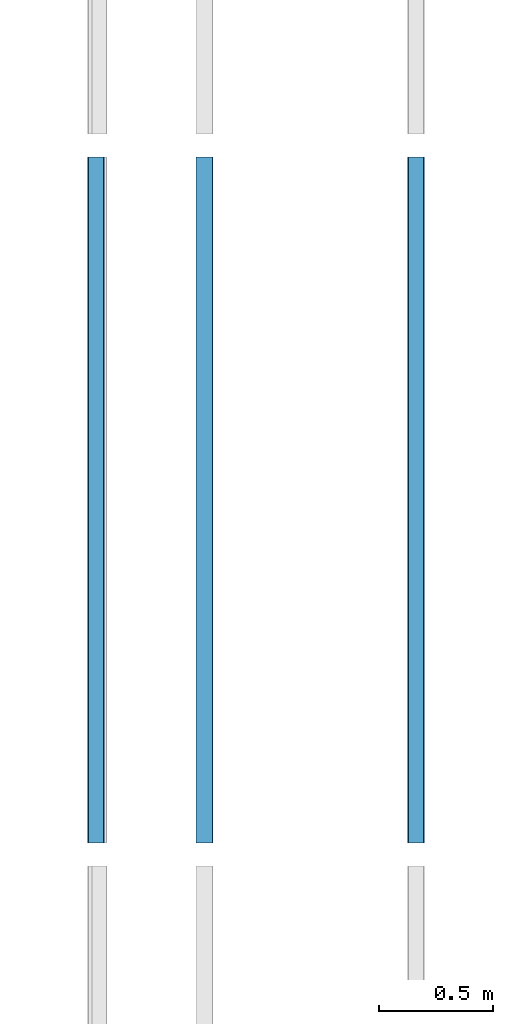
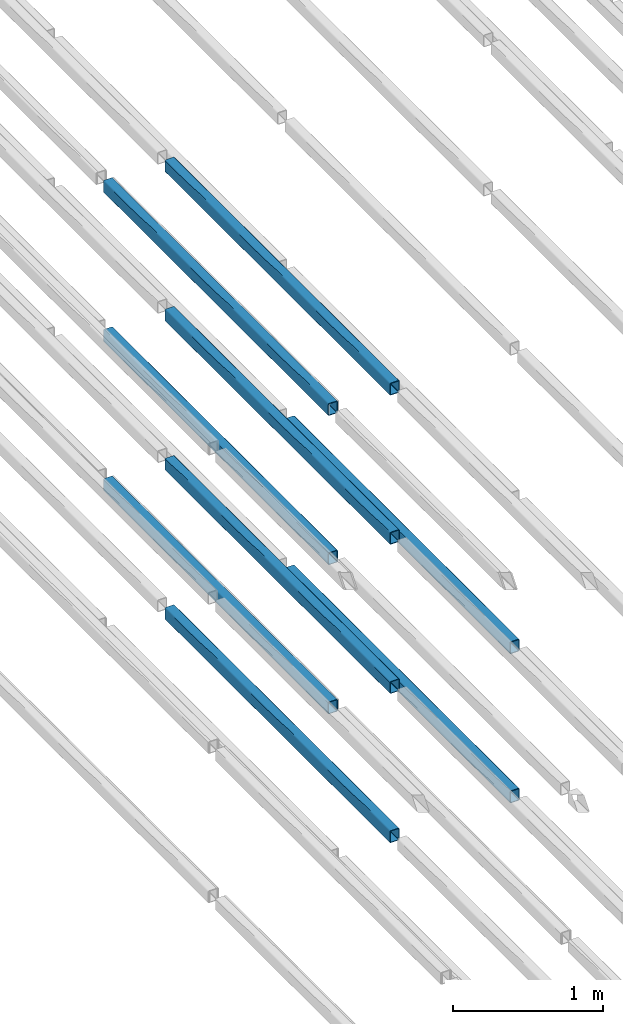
# One storey, part 42 of 290: 9 beams.
"""IFC2X3 building model written with IfcOpenShell, lengths in metres."""

from ifc_helpers import new_model, entity, si_unit, converted_unit, derived_unit, direction, frame, frame_2d, origin, place, context, subcontext, project, spatial, polyline, circle_curve, parameter, trimmed, segment, composite_curve, outline, extrude, material, type_object, element, save


model = new_model("IFC2X3")

# Units and contexts
model_context = context("Model", 3, precision=1e-05, world=origin(), true_north=direction((6.12303176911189e-17, 1.0)))
body_context = subcontext(model_context, "Body", "Model", "MODEL_VIEW")
ifc_project = project(units=[si_unit("LENGTHUNIT", "METRE"), si_unit("AREAUNIT", "SQUARE_METRE"), si_unit("VOLUMEUNIT", "CUBIC_METRE"), converted_unit("PLANEANGLEUNIT", "DEGREE", entity("IfcRatioMeasure", 0.0174532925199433), si_unit("PLANEANGLEUNIT", "RADIAN"), dimensions=[0, 0, 0, 0, 0, 0, 0]), si_unit("MASSUNIT", "GRAM", prefix="KILO"), derived_unit("MASSDENSITYUNIT", [(si_unit("MASSUNIT", "GRAM", prefix="KILO"), 1), (si_unit("LENGTHUNIT", "METRE"), -3)]), derived_unit("MOMENTOFINERTIAUNIT", [(si_unit("LENGTHUNIT", "METRE"), 4)]), si_unit("TIMEUNIT", "SECOND"), si_unit("FREQUENCYUNIT", "HERTZ"), si_unit("THERMODYNAMICTEMPERATUREUNIT", "DEGREE_CELSIUS"), derived_unit("THERMALTRANSMITTANCEUNIT", [(si_unit("MASSUNIT", "GRAM", prefix="KILO"), 1), (si_unit("THERMODYNAMICTEMPERATUREUNIT", "KELVIN"), -1), (si_unit("TIMEUNIT", "SECOND"), -3)]), derived_unit("VOLUMETRICFLOWRATEUNIT", [(si_unit("LENGTHUNIT", "METRE"), 3), (si_unit("TIMEUNIT", "SECOND"), -1)]), si_unit("ELECTRICCURRENTUNIT", "AMPERE"), si_unit("ELECTRICVOLTAGEUNIT", "VOLT"), si_unit("POWERUNIT", "WATT"), si_unit("FORCEUNIT", "NEWTON", prefix="KILO"), si_unit("ILLUMINANCEUNIT", "LUX"), si_unit("LUMINOUSFLUXUNIT", "LUMEN"), si_unit("LUMINOUSINTENSITYUNIT", "CANDELA"), derived_unit("USERDEFINED", [(si_unit("MASSUNIT", "GRAM", prefix="KILO"), -1), (si_unit("LENGTHUNIT", "METRE"), -2), (si_unit("TIMEUNIT", "SECOND"), 3), (si_unit("LUMINOUSFLUXUNIT", "LUMEN"), 1)]), derived_unit("LINEARVELOCITYUNIT", [(si_unit("LENGTHUNIT", "METRE"), 1), (si_unit("TIMEUNIT", "SECOND"), -1)]), si_unit("PRESSUREUNIT", "PASCAL"), derived_unit("USERDEFINED", [(si_unit("LENGTHUNIT", "METRE"), -2), (si_unit("MASSUNIT", "GRAM", prefix="KILO"), 1), (si_unit("TIMEUNIT", "SECOND"), -2)]), derived_unit("LINEARFORCEUNIT", [(si_unit("MASSUNIT", "GRAM", prefix="KILO"), 1), (si_unit("LENGTHUNIT", "METRE"), 1), (si_unit("TIMEUNIT", "SECOND"), -2), (si_unit("LENGTHUNIT", "METRE"), -1)]), derived_unit("PLANARFORCEUNIT", [(si_unit("MASSUNIT", "GRAM", prefix="KILO"), 1), (si_unit("LENGTHUNIT", "METRE"), 1), (si_unit("TIMEUNIT", "SECOND"), -2), (si_unit("LENGTHUNIT", "METRE"), -2)])], contexts=[model_context])

# Site, building, storey
site_placement = place(None, origin())
site = spatial("IfcSite", under=ifc_project, at=site_placement, Name="Default", CompositionType="ELEMENT")
building_placement = place(site_placement, origin())
building = spatial("IfcBuilding", under=site, at=building_placement, CompositionType="ELEMENT")
storey_placement = place(building_placement, frame((0.0, 0.0, 4.0)))
storey = spatial("IfcBuildingStorey", under=building, at=storey_placement, Name="01_OG", CompositionType="ELEMENT", Elevation=4.0)

# Beams
ifc_material = material(Name="Metall - Baustahl S235 blau")
beam_type = type_object("IfcBeamType", Name="RHS Träger (EN 10219-2):RHS 100 x 75 x 5", PredefinedType="NOTDEFINED")
beam_1_placement = place(storey_placement, frame((-200.715111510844, 33.348088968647, -1.2), z_axis=(0.0, 0.0, 1.0), x_axis=(0.0, 1.0, 0.0)))
element("IfcBeam", 1, at=beam_1_placement, inside=storey, type_object=beam_type, material=ifc_material, Name="RHS Träger (EN 10219-2):RHS 100 x 75 x 5", ObjectType="RHS Träger (EN 10219-2):RHS 100 x 75 x 5", context=body_context, shape_type="SweptSolid", body=[
    extrude(outline(composite_curve([segment(trimmed(circle_curve(frame_2d((-0.0274999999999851, -0.0400000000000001), x_axis=(1.0, 0.0)), 0.01), [parameter(180.0)], [parameter(270.0)], True, "PARAMETER"), True, "CONTINUOUS"), segment(polyline([(-0.0274999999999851, -0.05), (0.0274999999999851, -0.05)]), True, "CONTINUOUS"), segment(trimmed(circle_curve(frame_2d((0.0274999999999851, -0.0400000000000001), x_axis=(1.0, 0.0)), 0.01), [parameter(270.0)], [parameter(5.08888749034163e-14)], True, "PARAMETER"), True, "CONTINUOUS"), segment(polyline([(0.0375000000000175, -0.0400000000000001), (0.0375000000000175, 0.0400000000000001)]), True, "CONTINUOUS"), segment(trimmed(circle_curve(frame_2d((0.0274999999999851, 0.0400000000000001), x_axis=(1.0, 0.0)), 0.01), [parameter(360.0)], [parameter(89.9999999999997)], True, "PARAMETER"), True, "CONTINUOUS"), segment(polyline([(0.0274999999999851, 0.05), (-0.0274999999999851, 0.05)]), True, "CONTINUOUS"), segment(trimmed(circle_curve(frame_2d((-0.0274999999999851, 0.0400000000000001), x_axis=(1.0, 0.0)), 0.01), [parameter(90.0000000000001)], [parameter(180.0)], True, "PARAMETER"), True, "CONTINUOUS"), segment(polyline([(-0.0374999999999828, 0.0400000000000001), (-0.0374999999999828, -0.0400000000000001)]), True, "CONTINUOUS")], self_intersect=False), holes=[composite_curve([segment(polyline([(0.0274999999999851, -0.0450000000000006), (-0.0274999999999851, -0.0450000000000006)]), True, "CONTINUOUS"), segment(trimmed(circle_curve(frame_2d((-0.0274999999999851, -0.0400000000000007), x_axis=(1.0, 0.0)), 0.005), [parameter(180.0)], [parameter(270.0)], True, "PARAMETER"), False, "CONTINUOUS"), segment(polyline([(-0.0325000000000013, -0.0400000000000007), (-0.0325000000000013, 0.039999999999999)]), True, "CONTINUOUS"), segment(trimmed(circle_curve(frame_2d((-0.0274999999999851, 0.039999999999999), x_axis=(1.0, 0.0)), 0.005), [parameter(90.0000000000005)], [parameter(180.0)], True, "PARAMETER"), False, "CONTINUOUS"), segment(polyline([(-0.0274999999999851, 0.044999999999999), (0.0274999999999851, 0.044999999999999)]), True, "CONTINUOUS"), segment(trimmed(circle_curve(frame_2d((0.0274999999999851, 0.039999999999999), x_axis=(1.0, 0.0)), 0.005), [parameter(0.0)], [parameter(90.0000000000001)], True, "PARAMETER"), False, "CONTINUOUS"), segment(polyline([(0.0325000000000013, 0.039999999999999), (0.0325000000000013, -0.0400000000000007)]), True, "CONTINUOUS"), segment(trimmed(circle_curve(frame_2d((0.0274999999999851, -0.0400000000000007), x_axis=(1.0, 0.0)), 0.005), [parameter(270.0)], [parameter(4.07110999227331e-13)], True, "PARAMETER"), False, "CONTINUOUS")], self_intersect=False)]), frame((9.99999999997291e-05, 0.0375000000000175, -0.0500000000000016), z_axis=(1.0, 0.0, 0.0), x_axis=(0.0, -1.0, 0.0)), (0.0, 0.0, 1.0), 2.9998),
])
beam_2_placement = place(storey_placement, frame((-200.715111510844, 33.348088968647, 0.0150000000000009), z_axis=(0.0, 0.0, 1.0), x_axis=(0.0, 1.0, 0.0)))
element("IfcBeam", 2, at=beam_2_placement, inside=storey, type_object=beam_type, material=ifc_material, Name="RHS Träger (EN 10219-2):RHS 100 x 75 x 5", ObjectType="RHS Träger (EN 10219-2):RHS 100 x 75 x 5", context=body_context, shape_type="SweptSolid", body=[
    extrude(outline(composite_curve([segment(trimmed(circle_curve(frame_2d((-0.0274999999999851, -0.0400000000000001), x_axis=(1.0, 0.0)), 0.01), [parameter(180.0)], [parameter(270.0)], True, "PARAMETER"), True, "CONTINUOUS"), segment(polyline([(-0.0274999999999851, -0.05), (0.0274999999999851, -0.05)]), True, "CONTINUOUS"), segment(trimmed(circle_curve(frame_2d((0.0274999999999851, -0.0400000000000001), x_axis=(1.0, 0.0)), 0.01), [parameter(270.0)], [parameter(5.08888749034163e-14)], True, "PARAMETER"), True, "CONTINUOUS"), segment(polyline([(0.0375000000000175, -0.0400000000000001), (0.0375000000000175, 0.0400000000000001)]), True, "CONTINUOUS"), segment(trimmed(circle_curve(frame_2d((0.0274999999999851, 0.0400000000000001), x_axis=(1.0, 0.0)), 0.01), [parameter(360.0)], [parameter(89.9999999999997)], True, "PARAMETER"), True, "CONTINUOUS"), segment(polyline([(0.0274999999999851, 0.05), (-0.0274999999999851, 0.05)]), True, "CONTINUOUS"), segment(trimmed(circle_curve(frame_2d((-0.0274999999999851, 0.0400000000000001), x_axis=(1.0, 0.0)), 0.01), [parameter(90.0000000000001)], [parameter(180.0)], True, "PARAMETER"), True, "CONTINUOUS"), segment(polyline([(-0.0374999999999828, 0.0400000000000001), (-0.0374999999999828, -0.0400000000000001)]), True, "CONTINUOUS")], self_intersect=False), holes=[composite_curve([segment(polyline([(0.0274999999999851, -0.0450000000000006), (-0.0274999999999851, -0.0450000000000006)]), True, "CONTINUOUS"), segment(trimmed(circle_curve(frame_2d((-0.0274999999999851, -0.0400000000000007), x_axis=(1.0, 0.0)), 0.005), [parameter(180.0)], [parameter(270.0)], True, "PARAMETER"), False, "CONTINUOUS"), segment(polyline([(-0.0325000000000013, -0.0400000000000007), (-0.0325000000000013, 0.039999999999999)]), True, "CONTINUOUS"), segment(trimmed(circle_curve(frame_2d((-0.0274999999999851, 0.039999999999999), x_axis=(1.0, 0.0)), 0.005), [parameter(90.0000000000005)], [parameter(180.0)], True, "PARAMETER"), False, "CONTINUOUS"), segment(polyline([(-0.0274999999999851, 0.044999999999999), (0.0274999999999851, 0.044999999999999)]), True, "CONTINUOUS"), segment(trimmed(circle_curve(frame_2d((0.0274999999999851, 0.039999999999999), x_axis=(1.0, 0.0)), 0.005), [parameter(0.0)], [parameter(90.0000000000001)], True, "PARAMETER"), False, "CONTINUOUS"), segment(polyline([(0.0325000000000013, 0.039999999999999), (0.0325000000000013, -0.0400000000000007)]), True, "CONTINUOUS"), segment(trimmed(circle_curve(frame_2d((0.0274999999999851, -0.0400000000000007), x_axis=(1.0, 0.0)), 0.005), [parameter(270.0)], [parameter(4.07110999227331e-13)], True, "PARAMETER"), False, "CONTINUOUS")], self_intersect=False)]), frame((9.99999999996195e-05, 0.0375000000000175, -0.0500000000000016), z_axis=(1.0, 0.0, 0.0), x_axis=(0.0, -1.0, 0.0)), (0.0, 0.0, 1.0), 2.9998),
])
beam_3_placement = place(storey_placement, frame((-200.715111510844, 33.348088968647, 1.23), z_axis=(0.0, 0.0, 1.0), x_axis=(0.0, 1.0, 0.0)))
element("IfcBeam", 3, at=beam_3_placement, inside=storey, type_object=beam_type, material=ifc_material, Name="RHS Träger (EN 10219-2):RHS 100 x 75 x 5", ObjectType="RHS Träger (EN 10219-2):RHS 100 x 75 x 5", context=body_context, shape_type="SweptSolid", body=[
    extrude(outline(composite_curve([segment(trimmed(circle_curve(frame_2d((-0.0274999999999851, -0.0399999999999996), x_axis=(1.0, 0.0)), 0.01), [parameter(180.0)], [parameter(270.0)], True, "PARAMETER"), True, "CONTINUOUS"), segment(polyline([(-0.0274999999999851, -0.0499999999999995), (0.0274999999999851, -0.0499999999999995)]), True, "CONTINUOUS"), segment(trimmed(circle_curve(frame_2d((0.0274999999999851, -0.0399999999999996), x_axis=(1.0, 0.0)), 0.01), [parameter(270.0)], [parameter(5.08888749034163e-14)], True, "PARAMETER"), True, "CONTINUOUS"), segment(polyline([(0.0375000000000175, -0.0399999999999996), (0.0375000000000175, 0.0399999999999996)]), True, "CONTINUOUS"), segment(trimmed(circle_curve(frame_2d((0.0274999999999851, 0.0399999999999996), x_axis=(1.0, 0.0)), 0.01), [parameter(360.0)], [parameter(89.9999999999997)], True, "PARAMETER"), True, "CONTINUOUS"), segment(polyline([(0.0274999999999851, 0.0500000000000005), (-0.0274999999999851, 0.0500000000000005)]), True, "CONTINUOUS"), segment(trimmed(circle_curve(frame_2d((-0.0274999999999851, 0.0399999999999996), x_axis=(1.0, 0.0)), 0.01), [parameter(90.0000000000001)], [parameter(180.0)], True, "PARAMETER"), True, "CONTINUOUS"), segment(polyline([(-0.0374999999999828, 0.0399999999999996), (-0.0374999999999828, -0.0399999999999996)]), True, "CONTINUOUS")], self_intersect=False), holes=[composite_curve([segment(polyline([(0.0274999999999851, -0.0450000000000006), (-0.0274999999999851, -0.0450000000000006)]), True, "CONTINUOUS"), segment(trimmed(circle_curve(frame_2d((-0.0274999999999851, -0.0400000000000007), x_axis=(1.0, 0.0)), 0.005), [parameter(180.0)], [parameter(270.0)], True, "PARAMETER"), False, "CONTINUOUS"), segment(polyline([(-0.0325000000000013, -0.0400000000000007), (-0.0325000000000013, 0.0399999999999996)]), True, "CONTINUOUS"), segment(trimmed(circle_curve(frame_2d((-0.0274999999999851, 0.0399999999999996), x_axis=(1.0, 0.0)), 0.005), [parameter(90.0000000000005)], [parameter(180.0)], True, "PARAMETER"), False, "CONTINUOUS"), segment(polyline([(-0.0274999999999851, 0.0449999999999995), (0.0274999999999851, 0.0449999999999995)]), True, "CONTINUOUS"), segment(trimmed(circle_curve(frame_2d((0.0274999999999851, 0.0399999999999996), x_axis=(1.0, 0.0)), 0.005), [parameter(0.0)], [parameter(90.0000000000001)], True, "PARAMETER"), False, "CONTINUOUS"), segment(polyline([(0.0325000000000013, 0.0399999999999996), (0.0325000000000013, -0.0400000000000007)]), True, "CONTINUOUS"), segment(trimmed(circle_curve(frame_2d((0.0274999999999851, -0.0400000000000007), x_axis=(1.0, 0.0)), 0.005), [parameter(270.0)], [parameter(4.07110999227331e-13)], True, "PARAMETER"), False, "CONTINUOUS")], self_intersect=False)]), frame((9.99999999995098e-05, 0.0375000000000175, -0.0500000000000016), z_axis=(1.0, 0.0, 0.0), x_axis=(0.0, -1.0, 0.0)), (0.0, 0.0, 1.0), 2.9998),
])
beam_4_placement = place(storey_placement, frame((-200.715111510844, 33.348088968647, 2.445), z_axis=(0.0, 0.0, 1.0), x_axis=(0.0, 1.0, 0.0)))
element("IfcBeam", 4, at=beam_4_placement, inside=storey, type_object=beam_type, material=ifc_material, Name="RHS Träger (EN 10219-2):RHS 100 x 75 x 5", ObjectType="RHS Träger (EN 10219-2):RHS 100 x 75 x 5", context=body_context, shape_type="SweptSolid", body=[
    extrude(outline(composite_curve([segment(trimmed(circle_curve(frame_2d((-0.0274999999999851, -0.0399999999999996), x_axis=(1.0, 0.0)), 0.01), [parameter(180.0)], [parameter(270.0)], True, "PARAMETER"), True, "CONTINUOUS"), segment(polyline([(-0.0274999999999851, -0.0499999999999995), (0.0274999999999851, -0.0499999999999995)]), True, "CONTINUOUS"), segment(trimmed(circle_curve(frame_2d((0.0274999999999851, -0.0399999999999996), x_axis=(1.0, 0.0)), 0.01), [parameter(270.0)], [parameter(5.08888749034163e-14)], True, "PARAMETER"), True, "CONTINUOUS"), segment(polyline([(0.0375000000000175, -0.0399999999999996), (0.0375000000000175, 0.0399999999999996)]), True, "CONTINUOUS"), segment(trimmed(circle_curve(frame_2d((0.0274999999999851, 0.0399999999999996), x_axis=(1.0, 0.0)), 0.01), [parameter(360.0)], [parameter(89.9999999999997)], True, "PARAMETER"), True, "CONTINUOUS"), segment(polyline([(0.0274999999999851, 0.0500000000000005), (-0.0274999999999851, 0.0500000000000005)]), True, "CONTINUOUS"), segment(trimmed(circle_curve(frame_2d((-0.0274999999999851, 0.0399999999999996), x_axis=(1.0, 0.0)), 0.01), [parameter(90.0000000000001)], [parameter(180.0)], True, "PARAMETER"), True, "CONTINUOUS"), segment(polyline([(-0.0374999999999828, 0.0399999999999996), (-0.0374999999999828, -0.0399999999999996)]), True, "CONTINUOUS")], self_intersect=False), holes=[composite_curve([segment(polyline([(0.0274999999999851, -0.0450000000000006), (-0.0274999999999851, -0.0450000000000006)]), True, "CONTINUOUS"), segment(trimmed(circle_curve(frame_2d((-0.0274999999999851, -0.0400000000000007), x_axis=(1.0, 0.0)), 0.005), [parameter(180.0)], [parameter(270.0)], True, "PARAMETER"), False, "CONTINUOUS"), segment(polyline([(-0.0325000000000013, -0.0400000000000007), (-0.0325000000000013, 0.0399999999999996)]), True, "CONTINUOUS"), segment(trimmed(circle_curve(frame_2d((-0.0274999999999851, 0.0399999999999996), x_axis=(1.0, 0.0)), 0.005), [parameter(90.0000000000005)], [parameter(180.0)], True, "PARAMETER"), False, "CONTINUOUS"), segment(polyline([(-0.0274999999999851, 0.0449999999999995), (0.0274999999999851, 0.0449999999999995)]), True, "CONTINUOUS"), segment(trimmed(circle_curve(frame_2d((0.0274999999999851, 0.0399999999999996), x_axis=(1.0, 0.0)), 0.005), [parameter(0.0)], [parameter(90.0000000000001)], True, "PARAMETER"), False, "CONTINUOUS"), segment(polyline([(0.0325000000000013, 0.0399999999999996), (0.0325000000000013, -0.0400000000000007)]), True, "CONTINUOUS"), segment(trimmed(circle_curve(frame_2d((0.0274999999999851, -0.0400000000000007), x_axis=(1.0, 0.0)), 0.005), [parameter(270.0)], [parameter(4.07110999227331e-13)], True, "PARAMETER"), False, "CONTINUOUS")], self_intersect=False)]), frame((9.99999999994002e-05, 0.0375000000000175, -0.0500000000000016), z_axis=(1.0, 0.0, 0.0), x_axis=(0.0, -1.0, 0.0)), (0.0, 0.0, 1.0), 2.9998),
])
beam_5_placement = place(storey_placement, frame((-199.865111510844, 33.348088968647, -1.2), z_axis=(0.0, 0.0, 1.0), x_axis=(0.0, 1.0, 0.0)))
element("IfcBeam", 5, at=beam_5_placement, inside=storey, type_object=beam_type, material=ifc_material, Name="RHS Träger (EN 10219-2):RHS 100 x 75 x 5", ObjectType="RHS Träger (EN 10219-2):RHS 100 x 75 x 5", context=body_context, shape_type="SweptSolid", body=[
    extrude(outline(composite_curve([segment(polyline([(-0.0400000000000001, -0.0374999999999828), (0.0400000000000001, -0.0374999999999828)]), True, "CONTINUOUS"), segment(trimmed(circle_curve(frame_2d((0.0400000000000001, -0.0274999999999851), x_axis=(0.0, 1.0)), 0.01), [parameter(180.0)], [parameter(270.0)], True, "PARAMETER"), True, "CONTINUOUS"), segment(polyline([(0.05, -0.0274999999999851), (0.05, 0.0274999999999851)]), True, "CONTINUOUS"), segment(trimmed(circle_curve(frame_2d((0.0400000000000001, 0.0274999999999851), x_axis=(0.0, 1.0)), 0.01), [parameter(270.0)], [parameter(4.07110999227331e-13)], True, "PARAMETER"), True, "CONTINUOUS"), segment(polyline([(0.0400000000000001, 0.0375000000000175), (-0.0400000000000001, 0.0375000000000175)]), True, "CONTINUOUS"), segment(trimmed(circle_curve(frame_2d((-0.0400000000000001, 0.0274999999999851), x_axis=(0.0, 1.0)), 0.01), [parameter(360.0)], [parameter(90.0000000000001)], True, "PARAMETER"), True, "CONTINUOUS"), segment(polyline([(-0.05, 0.0274999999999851), (-0.05, -0.0274999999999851)]), True, "CONTINUOUS"), segment(trimmed(circle_curve(frame_2d((-0.0400000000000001, -0.0274999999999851), x_axis=(0.0, 1.0)), 0.01), [parameter(90.0000000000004)], [parameter(180.0)], True, "PARAMETER"), True, "CONTINUOUS")], self_intersect=False), holes=[composite_curve([segment(trimmed(circle_curve(frame_2d((-0.0400000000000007, 0.0274999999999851), x_axis=(0.0, 1.0)), 0.005), [parameter(360.0)], [parameter(89.9999999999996)], True, "PARAMETER"), False, "CONTINUOUS"), segment(polyline([(-0.0400000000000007, 0.0325000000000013), (0.039999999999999, 0.0325000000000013)]), True, "CONTINUOUS"), segment(trimmed(circle_curve(frame_2d((0.039999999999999, 0.0274999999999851), x_axis=(0.0, 1.0)), 0.005), [parameter(270.0)], [parameter(0.0)], True, "PARAMETER"), False, "CONTINUOUS"), segment(polyline([(0.044999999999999, 0.0274999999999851), (0.044999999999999, -0.0274999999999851)]), True, "CONTINUOUS"), segment(trimmed(circle_curve(frame_2d((0.039999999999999, -0.0274999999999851), x_axis=(0.0, 1.0)), 0.005), [parameter(180.0)], [parameter(269.999999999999)], True, "PARAMETER"), False, "CONTINUOUS"), segment(polyline([(0.039999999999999, -0.0325000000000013), (-0.0400000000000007, -0.0325000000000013)]), True, "CONTINUOUS"), segment(trimmed(circle_curve(frame_2d((-0.0400000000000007, -0.0274999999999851), x_axis=(0.0, 1.0)), 0.005), [parameter(90.0000000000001)], [parameter(180.0)], True, "PARAMETER"), False, "CONTINUOUS"), segment(polyline([(-0.0450000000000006, -0.0274999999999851), (-0.0450000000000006, 0.0274999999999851)]), True, "CONTINUOUS")], self_intersect=False)]), frame((9.99999999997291e-05, -0.0375000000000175, -0.0500000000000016), z_axis=(1.0, 0.0, 0.0), x_axis=(0.0, 0.0, -1.0)), (0.0, 0.0, 1.0), 2.9998),
])
beam_6_placement = place(storey_placement, frame((-199.865111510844, 33.348088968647, 0.0150000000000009), z_axis=(0.0, 0.0, 1.0), x_axis=(0.0, 1.0, 0.0)))
element("IfcBeam", 6, at=beam_6_placement, inside=storey, type_object=beam_type, material=ifc_material, Name="RHS Träger (EN 10219-2):RHS 100 x 75 x 5", ObjectType="RHS Träger (EN 10219-2):RHS 100 x 75 x 5", context=body_context, shape_type="SweptSolid", body=[
    extrude(outline(composite_curve([segment(polyline([(-0.0400000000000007, -0.0374999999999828), (0.0399999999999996, -0.0374999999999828)]), True, "CONTINUOUS"), segment(trimmed(circle_curve(frame_2d((0.0399999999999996, -0.0274999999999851), x_axis=(0.0, 1.0)), 0.01), [parameter(180.0)], [parameter(270.0)], True, "PARAMETER"), True, "CONTINUOUS"), segment(polyline([(0.0499999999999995, -0.0274999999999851), (0.0499999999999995, 0.0274999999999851)]), True, "CONTINUOUS"), segment(trimmed(circle_curve(frame_2d((0.0399999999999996, 0.0274999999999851), x_axis=(0.0, 1.0)), 0.01), [parameter(270.0)], [parameter(4.07110999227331e-13)], True, "PARAMETER"), True, "CONTINUOUS"), segment(polyline([(0.0399999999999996, 0.0375000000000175), (-0.0400000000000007, 0.0375000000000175)]), True, "CONTINUOUS"), segment(trimmed(circle_curve(frame_2d((-0.0400000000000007, 0.0274999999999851), x_axis=(0.0, 1.0)), 0.01), [parameter(360.0)], [parameter(90.0000000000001)], True, "PARAMETER"), True, "CONTINUOUS"), segment(polyline([(-0.0500000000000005, 0.0274999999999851), (-0.0500000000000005, -0.0274999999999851)]), True, "CONTINUOUS"), segment(trimmed(circle_curve(frame_2d((-0.0400000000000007, -0.0274999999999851), x_axis=(0.0, 1.0)), 0.01), [parameter(90.0000000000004)], [parameter(180.0)], True, "PARAMETER"), True, "CONTINUOUS")], self_intersect=False), holes=[composite_curve([segment(trimmed(circle_curve(frame_2d((-0.0400000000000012, 0.0274999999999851), x_axis=(0.0, 1.0)), 0.005), [parameter(360.0)], [parameter(89.9999999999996)], True, "PARAMETER"), False, "CONTINUOUS"), segment(polyline([(-0.0400000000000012, 0.0325000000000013), (0.0399999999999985, 0.0325000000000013)]), True, "CONTINUOUS"), segment(trimmed(circle_curve(frame_2d((0.0399999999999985, 0.0274999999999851), x_axis=(0.0, 1.0)), 0.005), [parameter(270.0)], [parameter(0.0)], True, "PARAMETER"), False, "CONTINUOUS"), segment(polyline([(0.0449999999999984, 0.0274999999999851), (0.0449999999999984, -0.0274999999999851)]), True, "CONTINUOUS"), segment(trimmed(circle_curve(frame_2d((0.0399999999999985, -0.0274999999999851), x_axis=(0.0, 1.0)), 0.005), [parameter(180.0)], [parameter(269.999999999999)], True, "PARAMETER"), False, "CONTINUOUS"), segment(polyline([(0.0399999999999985, -0.0325000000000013), (-0.0400000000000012, -0.0325000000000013)]), True, "CONTINUOUS"), segment(trimmed(circle_curve(frame_2d((-0.0400000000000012, -0.0274999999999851), x_axis=(0.0, 1.0)), 0.005), [parameter(90.0000000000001)], [parameter(180.0)], True, "PARAMETER"), False, "CONTINUOUS"), segment(polyline([(-0.0450000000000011, -0.0274999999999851), (-0.0450000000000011, 0.0274999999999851)]), True, "CONTINUOUS")], self_intersect=False)]), frame((9.99999999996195e-05, -0.0375000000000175, -0.0500000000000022), z_axis=(1.0, 0.0, 0.0), x_axis=(0.0, 0.0, -1.0)), (0.0, 0.0, 1.0), 2.9998),
])
beam_7_placement = place(storey_placement, frame((-201.265111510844, 33.348088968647, 0.0150000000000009), z_axis=(0.0, 0.0, 1.0), x_axis=(0.0, 1.0, 0.0)))
element("IfcBeam", 7, at=beam_7_placement, inside=storey, type_object=beam_type, material=ifc_material, Name="RHS Träger (EN 10219-2):RHS 100 x 75 x 5", ObjectType="RHS Träger (EN 10219-2):RHS 100 x 75 x 5", context=body_context, shape_type="SweptSolid", body=[
    extrude(outline(composite_curve([segment(polyline([(-0.0400000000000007, -0.0374999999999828), (0.0399999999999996, -0.0374999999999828)]), True, "CONTINUOUS"), segment(trimmed(circle_curve(frame_2d((0.0399999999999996, -0.0274999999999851), x_axis=(0.0, 1.0)), 0.01), [parameter(180.0)], [parameter(270.0)], True, "PARAMETER"), True, "CONTINUOUS"), segment(polyline([(0.0499999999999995, -0.0274999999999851), (0.0499999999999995, 0.0274999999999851)]), True, "CONTINUOUS"), segment(trimmed(circle_curve(frame_2d((0.0399999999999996, 0.0274999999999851), x_axis=(0.0, 1.0)), 0.01), [parameter(270.0)], [parameter(4.07110999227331e-13)], True, "PARAMETER"), True, "CONTINUOUS"), segment(polyline([(0.0399999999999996, 0.0375000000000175), (-0.0400000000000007, 0.0375000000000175)]), True, "CONTINUOUS"), segment(trimmed(circle_curve(frame_2d((-0.0400000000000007, 0.0274999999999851), x_axis=(0.0, 1.0)), 0.01), [parameter(360.0)], [parameter(90.0000000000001)], True, "PARAMETER"), True, "CONTINUOUS"), segment(polyline([(-0.0500000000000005, 0.0274999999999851), (-0.0500000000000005, -0.0274999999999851)]), True, "CONTINUOUS"), segment(trimmed(circle_curve(frame_2d((-0.0400000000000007, -0.0274999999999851), x_axis=(0.0, 1.0)), 0.01), [parameter(90.0000000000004)], [parameter(180.0)], True, "PARAMETER"), True, "CONTINUOUS")], self_intersect=False), holes=[composite_curve([segment(trimmed(circle_curve(frame_2d((-0.0400000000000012, 0.0274999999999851), x_axis=(0.0, 1.0)), 0.005), [parameter(360.0)], [parameter(89.9999999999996)], True, "PARAMETER"), False, "CONTINUOUS"), segment(polyline([(-0.0400000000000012, 0.0325000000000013), (0.0399999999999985, 0.0325000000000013)]), True, "CONTINUOUS"), segment(trimmed(circle_curve(frame_2d((0.0399999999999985, 0.0274999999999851), x_axis=(0.0, 1.0)), 0.005), [parameter(270.0)], [parameter(0.0)], True, "PARAMETER"), False, "CONTINUOUS"), segment(polyline([(0.0449999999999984, 0.0274999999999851), (0.0449999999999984, -0.0274999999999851)]), True, "CONTINUOUS"), segment(trimmed(circle_curve(frame_2d((0.0399999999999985, -0.0274999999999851), x_axis=(0.0, 1.0)), 0.005), [parameter(180.0)], [parameter(269.999999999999)], True, "PARAMETER"), False, "CONTINUOUS"), segment(polyline([(0.0399999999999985, -0.0325000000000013), (-0.0400000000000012, -0.0325000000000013)]), True, "CONTINUOUS"), segment(trimmed(circle_curve(frame_2d((-0.0400000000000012, -0.0274999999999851), x_axis=(0.0, 1.0)), 0.005), [parameter(90.0000000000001)], [parameter(180.0)], True, "PARAMETER"), False, "CONTINUOUS"), segment(polyline([(-0.0450000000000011, -0.0274999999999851), (-0.0450000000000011, 0.0274999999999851)]), True, "CONTINUOUS")], self_intersect=False)]), frame((9.99999999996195e-05, -0.0375000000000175, -0.0500000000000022), z_axis=(1.0, 0.0, 0.0), x_axis=(0.0, 0.0, -1.0)), (0.0, 0.0, 1.0), 2.9998),
])
beam_8_placement = place(storey_placement, frame((-201.265111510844, 33.348088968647, 1.23), z_axis=(0.0, 0.0, 1.0), x_axis=(0.0, 1.0, 0.0)))
element("IfcBeam", 8, at=beam_8_placement, inside=storey, type_object=beam_type, material=ifc_material, Name="RHS Träger (EN 10219-2):RHS 100 x 75 x 5", ObjectType="RHS Träger (EN 10219-2):RHS 100 x 75 x 5", context=body_context, shape_type="SweptSolid", body=[
    extrude(outline(composite_curve([segment(polyline([(-0.0399999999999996, -0.0374999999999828), (0.0399999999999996, -0.0374999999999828)]), True, "CONTINUOUS"), segment(trimmed(circle_curve(frame_2d((0.0399999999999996, -0.0274999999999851), x_axis=(0.0, 1.0)), 0.01), [parameter(180.0)], [parameter(270.0)], True, "PARAMETER"), True, "CONTINUOUS"), segment(polyline([(0.0500000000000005, -0.0274999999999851), (0.0500000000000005, 0.0274999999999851)]), True, "CONTINUOUS"), segment(trimmed(circle_curve(frame_2d((0.0399999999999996, 0.0274999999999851), x_axis=(0.0, 1.0)), 0.01), [parameter(270.0)], [parameter(4.07110999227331e-13)], True, "PARAMETER"), True, "CONTINUOUS"), segment(polyline([(0.0399999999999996, 0.0375000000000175), (-0.0399999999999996, 0.0375000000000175)]), True, "CONTINUOUS"), segment(trimmed(circle_curve(frame_2d((-0.0399999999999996, 0.0274999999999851), x_axis=(0.0, 1.0)), 0.01), [parameter(360.0)], [parameter(90.0000000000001)], True, "PARAMETER"), True, "CONTINUOUS"), segment(polyline([(-0.0499999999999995, 0.0274999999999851), (-0.0499999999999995, -0.0274999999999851)]), True, "CONTINUOUS"), segment(trimmed(circle_curve(frame_2d((-0.0399999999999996, -0.0274999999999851), x_axis=(0.0, 1.0)), 0.01), [parameter(90.0000000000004)], [parameter(180.0)], True, "PARAMETER"), True, "CONTINUOUS")], self_intersect=False), holes=[composite_curve([segment(trimmed(circle_curve(frame_2d((-0.0400000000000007, 0.0274999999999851), x_axis=(0.0, 1.0)), 0.005), [parameter(360.0)], [parameter(89.9999999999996)], True, "PARAMETER"), False, "CONTINUOUS"), segment(polyline([(-0.0400000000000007, 0.0325000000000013), (0.0399999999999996, 0.0325000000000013)]), True, "CONTINUOUS"), segment(trimmed(circle_curve(frame_2d((0.0399999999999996, 0.0274999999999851), x_axis=(0.0, 1.0)), 0.005), [parameter(270.0)], [parameter(0.0)], True, "PARAMETER"), False, "CONTINUOUS"), segment(polyline([(0.0449999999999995, 0.0274999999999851), (0.0449999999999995, -0.0274999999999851)]), True, "CONTINUOUS"), segment(trimmed(circle_curve(frame_2d((0.0399999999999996, -0.0274999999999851), x_axis=(0.0, 1.0)), 0.005), [parameter(180.0)], [parameter(269.999999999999)], True, "PARAMETER"), False, "CONTINUOUS"), segment(polyline([(0.0399999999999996, -0.0325000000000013), (-0.0400000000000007, -0.0325000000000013)]), True, "CONTINUOUS"), segment(trimmed(circle_curve(frame_2d((-0.0400000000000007, -0.0274999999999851), x_axis=(0.0, 1.0)), 0.005), [parameter(90.0000000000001)], [parameter(180.0)], True, "PARAMETER"), False, "CONTINUOUS"), segment(polyline([(-0.0450000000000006, -0.0274999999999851), (-0.0450000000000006, 0.0274999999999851)]), True, "CONTINUOUS")], self_intersect=False)]), frame((9.99999999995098e-05, -0.0375000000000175, -0.0500000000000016), z_axis=(1.0, 0.0, 0.0), x_axis=(0.0, 0.0, -1.0)), (0.0, 0.0, 1.0), 2.9998),
])
beam_9_placement = place(storey_placement, frame((-201.265111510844, 33.348088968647, 2.445), z_axis=(0.0, 0.0, 1.0), x_axis=(0.0, 1.0, 0.0)))
element("IfcBeam", 9, at=beam_9_placement, inside=storey, type_object=beam_type, material=ifc_material, Name="RHS Träger (EN 10219-2):RHS 100 x 75 x 5", ObjectType="RHS Träger (EN 10219-2):RHS 100 x 75 x 5", context=body_context, shape_type="SweptSolid", body=[
    extrude(outline(composite_curve([segment(polyline([(-0.0399999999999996, -0.0374999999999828), (0.0399999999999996, -0.0374999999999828)]), True, "CONTINUOUS"), segment(trimmed(circle_curve(frame_2d((0.0399999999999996, -0.0274999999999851), x_axis=(0.0, 1.0)), 0.01), [parameter(180.0)], [parameter(270.0)], True, "PARAMETER"), True, "CONTINUOUS"), segment(polyline([(0.0500000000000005, -0.0274999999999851), (0.0500000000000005, 0.0274999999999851)]), True, "CONTINUOUS"), segment(trimmed(circle_curve(frame_2d((0.0399999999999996, 0.0274999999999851), x_axis=(0.0, 1.0)), 0.01), [parameter(270.0)], [parameter(4.07110999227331e-13)], True, "PARAMETER"), True, "CONTINUOUS"), segment(polyline([(0.0399999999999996, 0.0375000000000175), (-0.0399999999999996, 0.0375000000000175)]), True, "CONTINUOUS"), segment(trimmed(circle_curve(frame_2d((-0.0399999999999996, 0.0274999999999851), x_axis=(0.0, 1.0)), 0.01), [parameter(360.0)], [parameter(90.0000000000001)], True, "PARAMETER"), True, "CONTINUOUS"), segment(polyline([(-0.0499999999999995, 0.0274999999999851), (-0.0499999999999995, -0.0274999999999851)]), True, "CONTINUOUS"), segment(trimmed(circle_curve(frame_2d((-0.0399999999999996, -0.0274999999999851), x_axis=(0.0, 1.0)), 0.01), [parameter(90.0000000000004)], [parameter(180.0)], True, "PARAMETER"), True, "CONTINUOUS")], self_intersect=False), holes=[composite_curve([segment(trimmed(circle_curve(frame_2d((-0.0400000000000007, 0.0274999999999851), x_axis=(0.0, 1.0)), 0.005), [parameter(360.0)], [parameter(89.9999999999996)], True, "PARAMETER"), False, "CONTINUOUS"), segment(polyline([(-0.0400000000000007, 0.0325000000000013), (0.0399999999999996, 0.0325000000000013)]), True, "CONTINUOUS"), segment(trimmed(circle_curve(frame_2d((0.0399999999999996, 0.0274999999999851), x_axis=(0.0, 1.0)), 0.005), [parameter(270.0)], [parameter(0.0)], True, "PARAMETER"), False, "CONTINUOUS"), segment(polyline([(0.0449999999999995, 0.0274999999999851), (0.0449999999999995, -0.0274999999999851)]), True, "CONTINUOUS"), segment(trimmed(circle_curve(frame_2d((0.0399999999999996, -0.0274999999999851), x_axis=(0.0, 1.0)), 0.005), [parameter(180.0)], [parameter(269.999999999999)], True, "PARAMETER"), False, "CONTINUOUS"), segment(polyline([(0.0399999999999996, -0.0325000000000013), (-0.0400000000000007, -0.0325000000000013)]), True, "CONTINUOUS"), segment(trimmed(circle_curve(frame_2d((-0.0400000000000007, -0.0274999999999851), x_axis=(0.0, 1.0)), 0.005), [parameter(90.0000000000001)], [parameter(180.0)], True, "PARAMETER"), False, "CONTINUOUS"), segment(polyline([(-0.0450000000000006, -0.0274999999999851), (-0.0450000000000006, 0.0274999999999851)]), True, "CONTINUOUS")], self_intersect=False)]), frame((9.99999999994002e-05, -0.0375000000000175, -0.0500000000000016), z_axis=(1.0, 0.0, 0.0), x_axis=(0.0, 0.0, -1.0)), (0.0, 0.0, 1.0), 2.9998),
])

save(model, "model.ifc")
